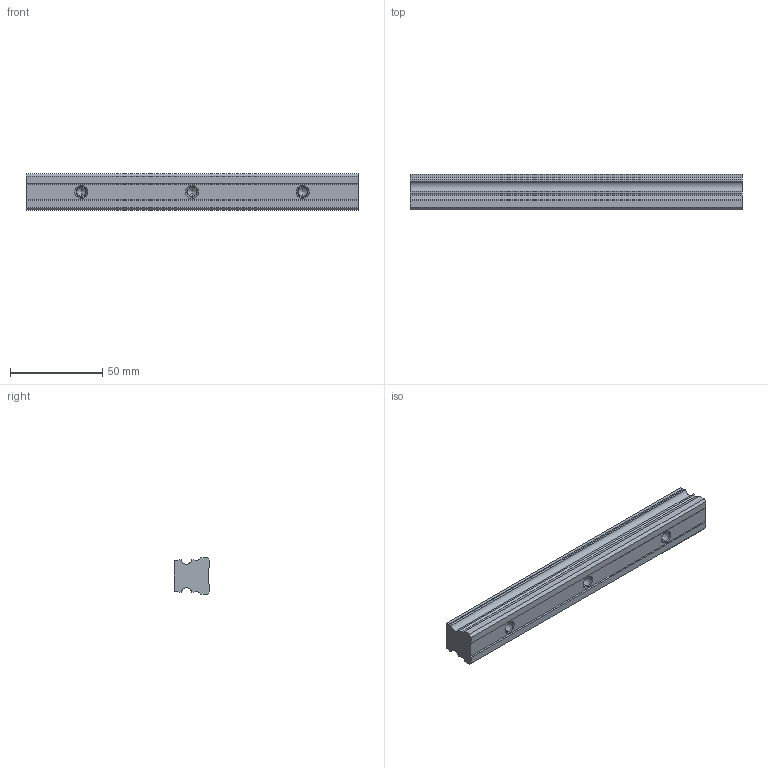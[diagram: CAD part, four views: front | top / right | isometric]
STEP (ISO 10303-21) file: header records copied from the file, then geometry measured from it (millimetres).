
FILE_DESCRIPTION (( 'STEP AP203' ), '1' );
FILE_NAME ('L1018.20R-0180.step', '2023-08-06T09:04:18', ( '' ), ( '' ), 'SwSTEP 2.0', 'SolidWorks 2019', '' );
FILE_SCHEMA (( 'CONFIG_CONTROL_DESIGN' ));
Length unit declared in the file: millimetre
Products named in the file (1): L1018.20R-0180
Bounding box: 180 x 19.3 x 20 mm (x, y, z)
Volume: 57083.1 mm3; surface area: 15835.5 mm2
Topology: 1 solids, 1 shells, 56 faces, 141 edges, 87 vertices
Faces by surface type: plane 29, cylinder 15, cone 12
Entity records: 1700 total; most frequent: DIRECTION 285, CARTESIAN_POINT 279, ORIENTED_EDGE 270, EDGE_CURVE 135, LINE 99, VECTOR 99, AXIS2_PLACEMENT_3D 93, VERTEX_POINT 87
